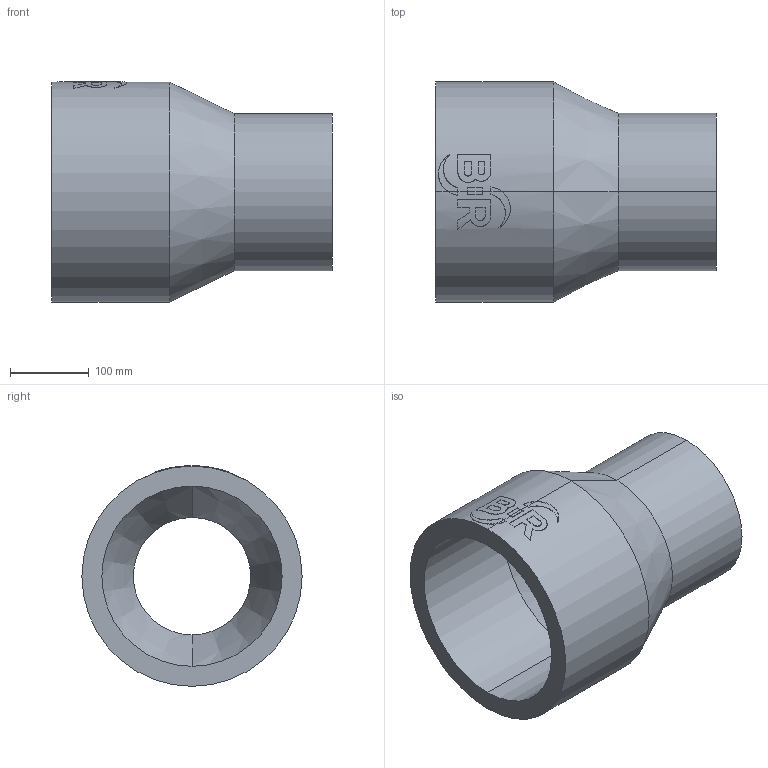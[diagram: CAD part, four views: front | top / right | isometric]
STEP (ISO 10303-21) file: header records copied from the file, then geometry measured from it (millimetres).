
FILE_DESCRIPTION (( 'STEP AP214' ), '1' );
FILE_NAME ('2323221915.STEP', '2018-07-20T09:51:17', ( '' ), ( '' ), 'SwSTEP 2.0', 'SolidWorks 2017', '' );
FILE_SCHEMA (( 'AUTOMOTIVE_DESIGN' ));
Length unit declared in the file: millimetre
Products named in the file (1): 2323221915
Bounding box: 357 x 280 x 280.46 mm (x, y, z)
Volume: 6334073.4 mm3; surface area: 533261.1 mm2
Topology: 1 solids, 1 shells, 63 faces, 160 edges, 104 vertices
Faces by surface type: cylinder 31, plane 28, cone 4
Entity records: 3383 total; most frequent: CARTESIAN_POINT 1174, ORIENTED_EDGE 320, DIRECTION 296, EDGE_CURVE 160, AXIS2_PLACEMENT_3D 112, VERTEX_POINT 104, LINE 72, VECTOR 72
